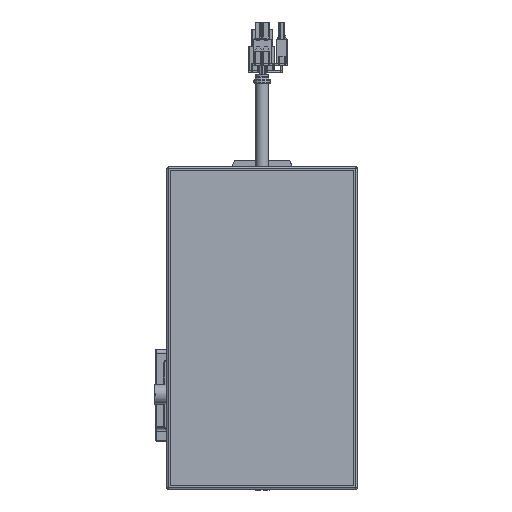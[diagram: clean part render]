
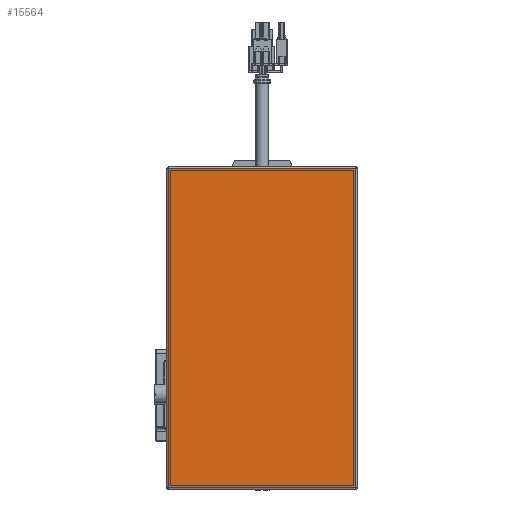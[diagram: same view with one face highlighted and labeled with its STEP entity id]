
A CAD part, top view. The second image highlights one B-rep face of the part: STEP entity #15564.
In plain terms, the highlighted planar face has unit normal (0, 0, 1).
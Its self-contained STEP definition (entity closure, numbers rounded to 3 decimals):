
#15525=CARTESIAN_POINT('',(-36.,36.,514.5));
#15526=DIRECTION('',(0.,1.,0.));
#15527=DIRECTION('',(0.,-0.,1.));
#15528=AXIS2_PLACEMENT_3D('',#15525,#15527,#15526);
#15529=PLANE('',#15528);
#15530=CARTESIAN_POINT('',(51.,-51.,514.5));
#15531=VERTEX_POINT('',#15530);
#15532=CARTESIAN_POINT('',(51.,123.,514.5));
#15533=VERTEX_POINT('',#15532);
#15534=CARTESIAN_POINT('',(51.,-51.,514.5));
#15535=DIRECTION('',(0.,1.,0.));
#15536=VECTOR('',#15535,174.);
#15537=LINE('',#15534,#15536);
#15538=EDGE_CURVE('',#15531,#15533,#15537,.T.);
#15539=ORIENTED_EDGE('E3132',*,*,#15538,.T.);
#15540=CARTESIAN_POINT('',(-51.,123.,514.5));
#15541=VERTEX_POINT('',#15540);
#15542=CARTESIAN_POINT('',(51.,123.,514.5));
#15543=DIRECTION('',(-1.,0.,0.));
#15544=VECTOR('',#15543,102.);
#15545=LINE('',#15542,#15544);
#15546=EDGE_CURVE('',#15533,#15541,#15545,.T.);
#15547=ORIENTED_EDGE('E3133',*,*,#15546,.T.);
#15548=CARTESIAN_POINT('',(-51.,-51.,514.5));
#15549=VERTEX_POINT('',#15548);
#15550=CARTESIAN_POINT('',(-51.,123.,514.5));
#15551=DIRECTION('',(0.,-1.,0.));
#15552=VECTOR('',#15551,174.);
#15553=LINE('',#15550,#15552);
#15554=EDGE_CURVE('',#15541,#15549,#15553,.T.);
#15555=ORIENTED_EDGE('E3134',*,*,#15554,.T.);
#15556=CARTESIAN_POINT('',(-51.,-51.,514.5));
#15557=DIRECTION('',(1.,0.,0.));
#15558=VECTOR('',#15557,102.);
#15559=LINE('',#15556,#15558);
#15560=EDGE_CURVE('',#15549,#15531,#15559,.T.);
#15561=ORIENTED_EDGE('E3135',*,*,#15560,.T.);
#15562=EDGE_LOOP('',(#15539,#15547,#15555,#15561));
#15563=FACE_OUTER_BOUND('',#15562,.T.);
#15564=ADVANCED_FACE('F1184',(#15563),#15529,.T.);
